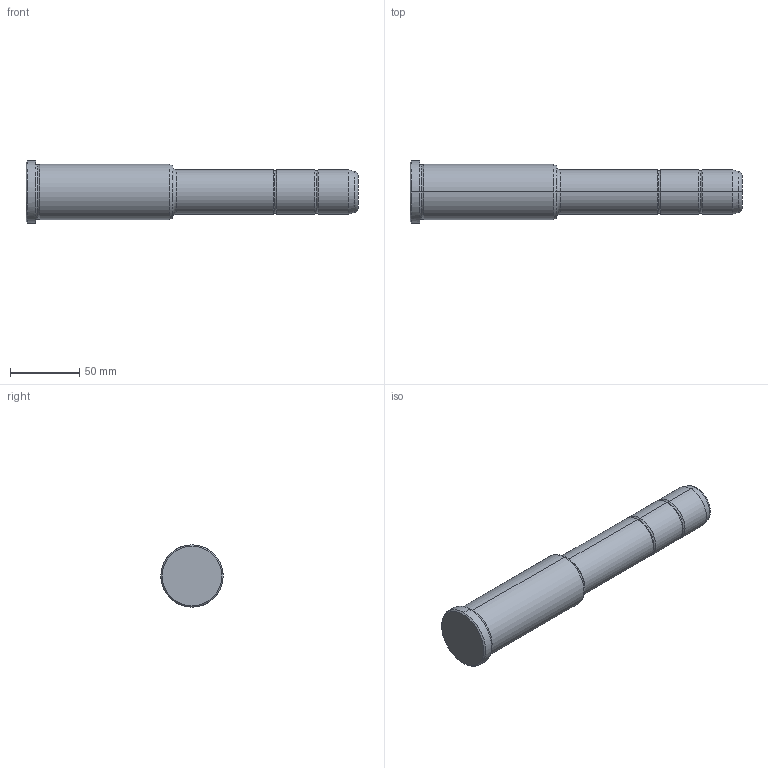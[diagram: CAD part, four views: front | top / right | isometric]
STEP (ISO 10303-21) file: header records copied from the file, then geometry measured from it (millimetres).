
FILE_DESCRIPTION(('CATIA V5 STEP Exchange'),'2;1');
FILE_NAME('C:\Users\Utente\Desktop\IO LAVORO\3D X SITO CF\X SITO\PLASTICA\351\351-32X106X240.stp','2021-09-15T11:46:10+00:00',('none'),('none'),'CATIA Version 5 Release 20 GA (IN-10)','CATIA V5 STEP AP203','none');
FILE_SCHEMA(('CONFIG_CONTROL_DESIGN'));
Length unit declared in the file: millimetre
Products named in the file (1): 351-32X106X240
Bounding box: 240 x 45 x 45 mm (x, y, z)
Volume: 242104 mm3; surface area: 29653 mm2
Topology: 1 solids, 1 shells, 36 faces, 102 edges, 70 vertices
Faces by surface type: torus 16, cylinder 10, cone 6, plane 4
Entity records: 1292 total; most frequent: CARTESIAN_POINT 321, ORIENTED_EDGE 204, DIRECTION 166, AXIS2_PLACEMENT_3D 115, EDGE_CURVE 102, CIRCLE 78, VERTEX_POINT 70, EDGE_LOOP 38
